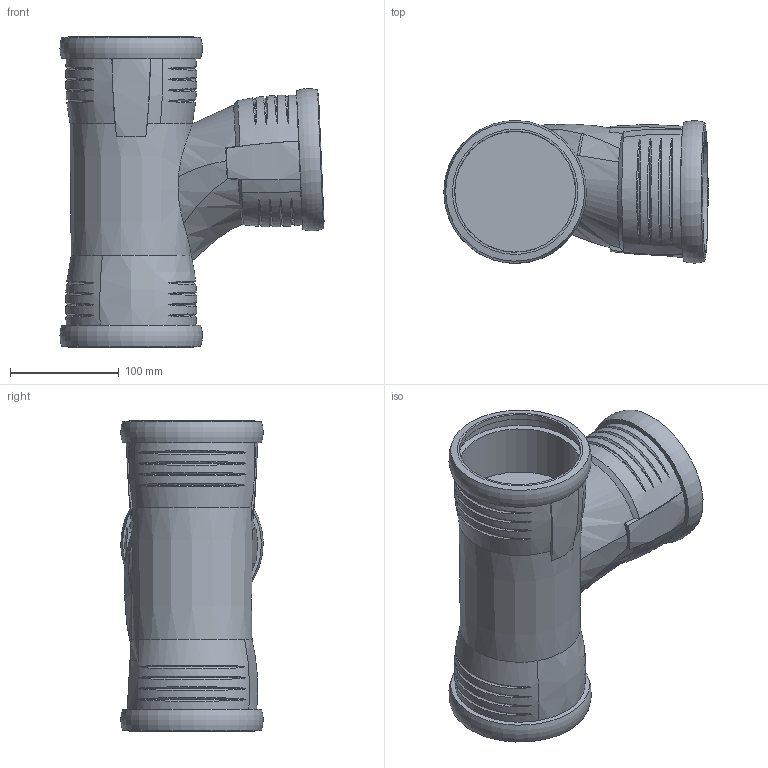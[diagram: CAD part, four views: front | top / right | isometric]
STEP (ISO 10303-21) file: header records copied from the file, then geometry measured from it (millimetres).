
FILE_DESCRIPTION(/* description */ (''),/* implementation_level */ '2;1');
FILE_NAME(/* name */ 'C:\Planerdaten\Export PLA\393.542.14.1\stp\393542.stp',/* time_stamp */ '2022-09-16T14:47:22+02:00',/* author */ ('JANAN'),/* organization */ (''),/* preprocessor_version */ 'ST-DEVELOPER v18.1',/* originating_system */ 'Autodesk Inventor 2021',/* authorisation */ '');
FILE_SCHEMA (('AUTOMOTIVE_DESIGN { 1 0 10303 214 3 1 1 }'));
Length unit declared in the file: millimetre
Products named in the file (1): tmp1132.tmp
Bounding box: 242.83 x 130.96 x 285 mm (x, y, z)
Volume: 2562657.5 mm3; surface area: 271020.9 mm2
Topology: 1 solids, 2 shells, 126 faces, 280 edges, 183 vertices
Faces by surface type: bspline 88, cone 19, cylinder 9, plane 6, torus 3, sphere 1
Full cylindrical faces by diameter (mm): 111 x3, 111.3 x3, 121.5 x3
Entity records: 22367 total; most frequent: CARTESIAN_POINT 19935, ORIENTED_EDGE 556, DIRECTION 303, EDGE_CURVE 278, VERTEX_POINT 183, EDGE_LOOP 153, B_SPLINE_CURVE_WITH_KNOTS 152, AXIS2_PLACEMENT_3D 138
